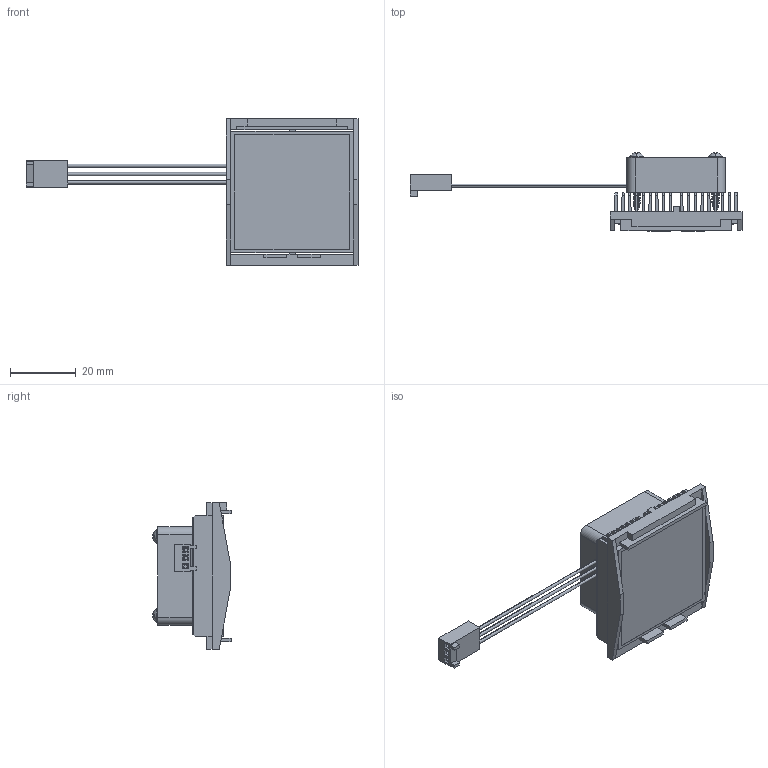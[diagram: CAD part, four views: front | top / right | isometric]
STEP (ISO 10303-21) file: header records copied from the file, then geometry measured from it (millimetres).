
FILE_DESCRIPTION (( 'STEP AP214' ), '1' );
FILE_NAME ('FJ37.5-1.7+Y.STEP', '2023-05-09T18:41:02', ( '' ), ( '' ), 'SwSTEP 2.0', 'SolidWorks 2020', '' );
FILE_SCHEMA (( 'AUTOMOTIVE_DESIGN' ));
Length unit declared in the file: millimetre
Products named in the file (1): FJ37.5-1.7+Y
Bounding box: 101.09 x 23.8 x 44.6 mm (x, y, z)
Volume: 12902.3 mm3; surface area: 25009.4 mm2
Topology: 8 solids, 8 shells, 912 faces, 2634 edges, 1750 vertices
Faces by surface type: cylinder 390, plane 344, bspline 122, cone 40, sphere 8, torus 8
Entity records: 65593 total; most frequent: CARTESIAN_POINT 34333, ORIENTED_EDGE 5268, DIRECTION 3576, EDGE_CURVE 2634, VERTEX_POINT 1750, LINE 1330, VECTOR 1330, AXIS2_PLACEMENT_3D 1123
